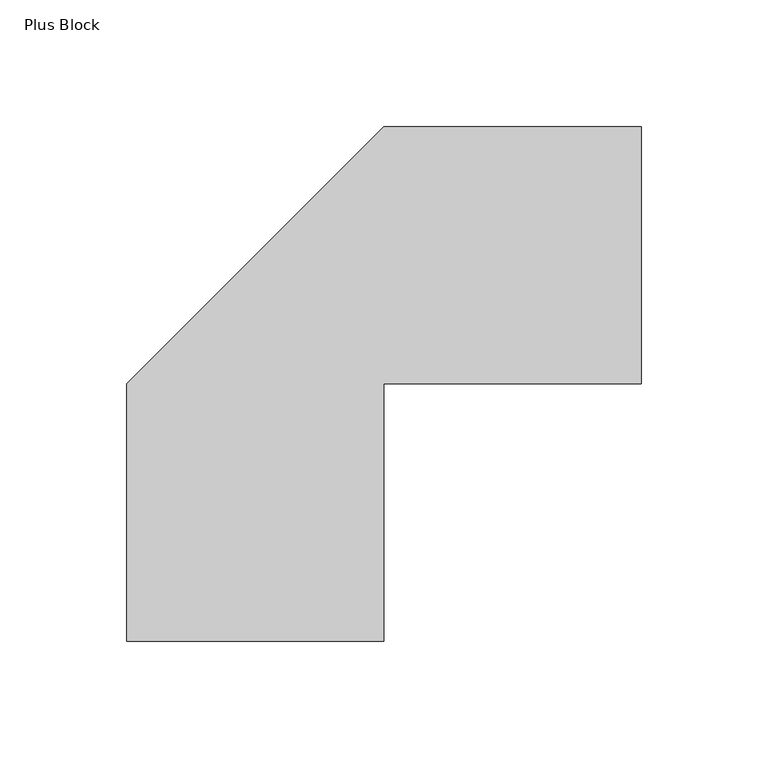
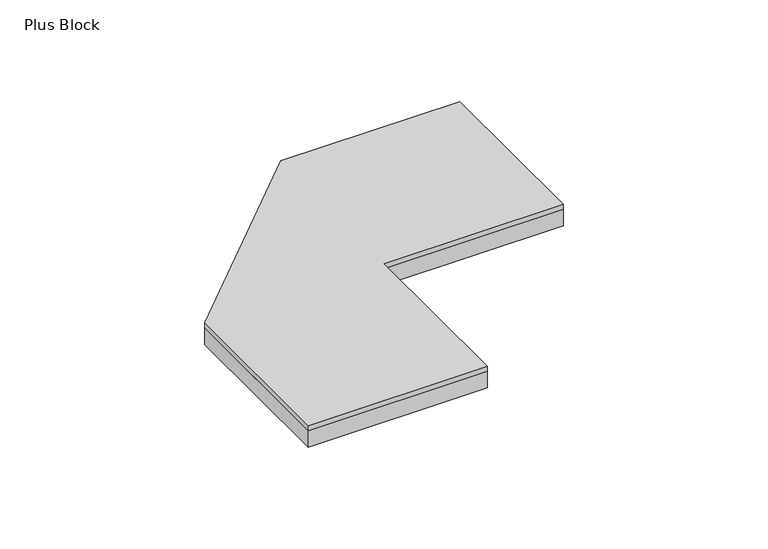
"""IFC4 building model written with IfcOpenShell, lengths in millimetres: proxy geometry, FilzFelt_Plus_Block : Plus Block."""

from ifc_helpers import new_model, si_unit, frame, origin, origin_with_axes, place, context, project, spatial, polyline, outline, extrude, source, transform, mapped, element, save


def plus_block_e310b0f0(model_context):
    return source(origin(), model_context, "Body", "SweptSolid", [
        extrude(outline(polyline([(50.8333333, 50.8333333), (152.5, 50.8333333), (152.5, -50.8333333), (50.8333333, -50.8333333), (50.8333333, -152.5), (-50.8333333, -152.5), (-50.8333333, -50.8333333), (50.8333333, 50.8333333)])), frame((0.0, 0.0, 10.0210937), z_axis=(0.0, 0.0, 1.0), x_axis=(1.0, 0.0, 0.0)), (0.0, 0.0, 1.0), 2.9765625),
        extrude(outline(polyline([(50.8333333, 50.8333333), (152.5, 50.8333333), (152.5, -50.8333333), (50.8333333, -50.8333333), (50.8333333, -152.5), (-50.8333333, -152.5), (-50.8333333, -50.8333333), (50.8333333, 50.8333333)])), origin_with_axes(), (0.0, 0.0, 1.0), 10.0210938),
    ])


if __name__ == "__main__":
    model = new_model("IFC4")
    model_context = context("Model", 3, world=origin())
    ifc_project = project(units=[si_unit("LENGTHUNIT", "METRE", prefix="MILLI")], contexts=[model_context])
    site = spatial("IfcSite", under=ifc_project)
    building = spatial("IfcBuilding", under=site)
    placement = place(None, origin())
    plus_block_shape = plus_block_e310b0f0(model_context)
    element("IfcBuildingElementProxy", 1, Name="FilzFelt_Plus_Block : Plus Block", ObjectType="FilzFelt_Plus_Block : Plus Block", at=placement, inside=building, context=model_context, shape_type="MappedRepresentation", body=[
        mapped(plus_block_shape, transform((0.0, 0.0, 0.0), x_axis=(1.0, 0.0, 0.0), y_axis=(0.0, 1.0, 0.0), z_axis=(0.0, 0.0, 1.0))),
    ])
    save(model, "model.ifc")
